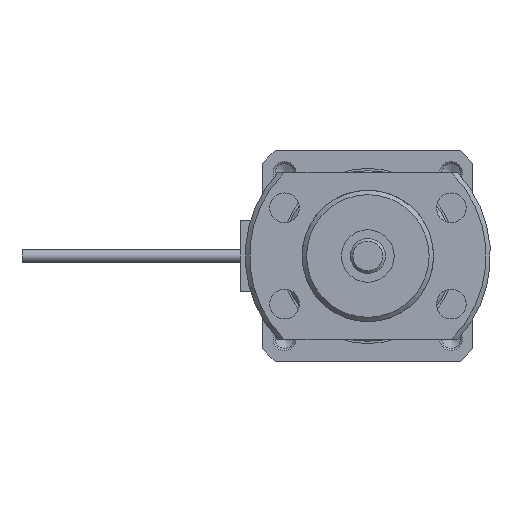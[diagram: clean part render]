
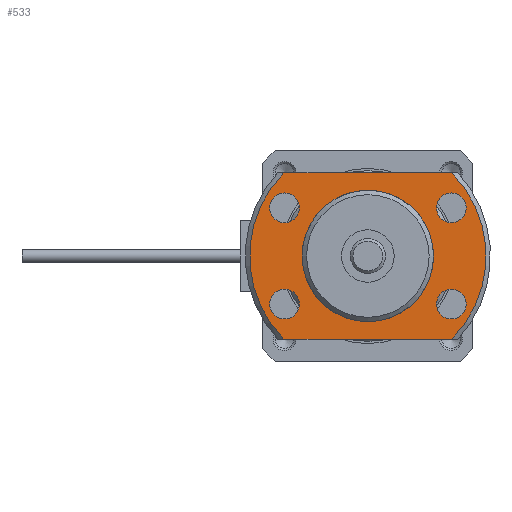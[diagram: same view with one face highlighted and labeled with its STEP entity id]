
A CAD part, left-side view. The second image highlights one B-rep face of the part: STEP entity #533.
In plain terms, the highlighted planar face has unit normal (-1, 0, 0) as drawn and (0, 0, 1) by its records, which use the part's own axes.
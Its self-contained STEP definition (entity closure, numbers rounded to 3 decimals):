
#533 = ADVANCED_FACE( '', ( #1198, #1199, #1200, #1201, #1202, #1203 ), #1204, .F. );
#1198 = FACE_OUTER_BOUND( '', #2085, .T. );
#1199 = FACE_BOUND( '', #2086, .T. );
#1200 = FACE_BOUND( '', #2087, .T. );
#1201 = FACE_BOUND( '', #2088, .T. );
#1202 = FACE_BOUND( '', #2089, .T. );
#1203 = FACE_BOUND( '', #2090, .T. );
#1204 = PLANE( '', #2091 );
#2085 = EDGE_LOOP( '', ( #3565, #3566, #3567, #3568 ) );
#2086 = EDGE_LOOP( '', ( #3569 ) );
#2087 = EDGE_LOOP( '', ( #3570 ) );
#2088 = EDGE_LOOP( '', ( #3571 ) );
#2089 = EDGE_LOOP( '', ( #3572 ) );
#2090 = EDGE_LOOP( '', ( #3573 ) );
#2091 = AXIS2_PLACEMENT_3D( '', #3574, #3575, #3576 );
#3565 = ORIENTED_EDGE( '', *, *, #4845, .F. );
#3566 = ORIENTED_EDGE( '', *, *, #5271, .T. );
#3567 = ORIENTED_EDGE( '', *, *, #4911, .F. );
#3568 = ORIENTED_EDGE( '', *, *, #5272, .T. );
#3569 = ORIENTED_EDGE( '', *, *, #5273, .F. );
#3570 = ORIENTED_EDGE( '', *, *, #5274, .F. );
#3571 = ORIENTED_EDGE( '', *, *, #4855, .F. );
#3572 = ORIENTED_EDGE( '', *, *, #4915, .F. );
#3573 = ORIENTED_EDGE( '', *, *, #5275, .T. );
#3574 = CARTESIAN_POINT( '', ( 0., 0., -13. ) );
#3575 = DIRECTION( '', ( 0., 0., -1. ) );
#3576 = DIRECTION( '', ( -1., 0., 0. ) );
#4845 = EDGE_CURVE( '', #5768, #5771, #5772, .T. );
#4855 = EDGE_CURVE( '', #5787, #5787, #5788, .T. );
#4911 = EDGE_CURVE( '', #5879, #5882, #5883, .T. );
#4915 = EDGE_CURVE( '', #5888, #5888, #5889, .T. );
#5271 = EDGE_CURVE( '', #5768, #5882, #6449, .T. );
#5272 = EDGE_CURVE( '', #5879, #5771, #6450, .T. );
#5273 = EDGE_CURVE( '', #6451, #6451, #6452, .T. );
#5274 = EDGE_CURVE( '', #6453, #6453, #6454, .T. );
#5275 = EDGE_CURVE( '', #6455, #6455, #6456, .T. );
#5768 = VERTEX_POINT( '', #7096 );
#5771 = VERTEX_POINT( '', #7102 );
#5772 = CIRCLE( '', #7103, 13.5 );
#5787 = VERTEX_POINT( '', #7121 );
#5788 = CIRCLE( '', #7122, 1.7 );
#5879 = VERTEX_POINT( '', #7254 );
#5882 = VERTEX_POINT( '', #7260 );
#5883 = CIRCLE( '', #7261, 13.5 );
#5888 = VERTEX_POINT( '', #7269 );
#5889 = CIRCLE( '', #7270, 1.7 );
#6449 = LINE( '', #8263, #8264 );
#6450 = LINE( '', #8265, #8266 );
#6451 = VERTEX_POINT( '', #8267 );
#6452 = CIRCLE( '', #8268, 1.7 );
#6453 = VERTEX_POINT( '', #8269 );
#6454 = CIRCLE( '', #8270, 1.7 );
#6455 = VERTEX_POINT( '', #8271 );
#6456 = CIRCLE( '', #8272, 7.25 );
#7096 = CARTESIAN_POINT( '', ( -9.5, 9.592, -13. ) );
#7102 = CARTESIAN_POINT( '', ( 9.5, 9.592, -13. ) );
#7103 = AXIS2_PLACEMENT_3D( '', #8972, #8973, #8974 );
#7121 = CARTESIAN_POINT( '', ( 7.205, 9.517, -13. ) );
#7122 = AXIS2_PLACEMENT_3D( '', #8990, #8991, #8992 );
#7254 = CARTESIAN_POINT( '', ( 9.5, -9.592, -13. ) );
#7260 = CARTESIAN_POINT( '', ( -9.5, -9.592, -13. ) );
#7261 = AXIS2_PLACEMENT_3D( '', #9052, #9053, #9054 );
#7269 = CARTESIAN_POINT( '', ( -3.795, 9.517, -13. ) );
#7270 = AXIS2_PLACEMENT_3D( '', #9058, #9059, #9060 );
#8263 = CARTESIAN_POINT( '', ( -9.5, 20., -13. ) );
#8264 = VECTOR( '', #9422, 1000. );
#8265 = CARTESIAN_POINT( '', ( 9.5, -20., -13. ) );
#8266 = VECTOR( '', #9423, 1000. );
#8267 = CARTESIAN_POINT( '', ( 7.205, -9.535, -13. ) );
#8268 = AXIS2_PLACEMENT_3D( '', #9424, #9425, #9426 );
#8269 = CARTESIAN_POINT( '', ( -3.795, -9.535, -13. ) );
#8270 = AXIS2_PLACEMENT_3D( '', #9427, #9428, #9429 );
#8271 = CARTESIAN_POINT( '', ( -7.25, 0., -13. ) );
#8272 = AXIS2_PLACEMENT_3D( '', #9430, #9431, #9432 );
#8972 = CARTESIAN_POINT( '', ( 0., 0., -13. ) );
#8973 = DIRECTION( '', ( 0., 0., -1. ) );
#8974 = DIRECTION( '', ( -1., 0., 0. ) );
#8990 = CARTESIAN_POINT( '', ( 5.505, 9.517, -13. ) );
#8991 = DIRECTION( '', ( 0., 0., 1. ) );
#8992 = DIRECTION( '', ( 1., 0., 0. ) );
#9052 = CARTESIAN_POINT( '', ( 0., 0., -13. ) );
#9053 = DIRECTION( '', ( 0., 0., -1. ) );
#9054 = DIRECTION( '', ( -1., 0., 0. ) );
#9058 = CARTESIAN_POINT( '', ( -5.495, 9.517, -13. ) );
#9059 = DIRECTION( '', ( 0., 0., 1. ) );
#9060 = DIRECTION( '', ( 1., 0., 0. ) );
#9422 = DIRECTION( '', ( 0., -1., 0. ) );
#9423 = DIRECTION( '', ( 0., 1., 0. ) );
#9424 = CARTESIAN_POINT( '', ( 5.505, -9.535, -13. ) );
#9425 = DIRECTION( '', ( 0., 0., 1. ) );
#9426 = DIRECTION( '', ( 1., 0., 0. ) );
#9427 = CARTESIAN_POINT( '', ( -5.495, -9.535, -13. ) );
#9428 = DIRECTION( '', ( 0., 0., 1. ) );
#9429 = DIRECTION( '', ( 1., 0., 0. ) );
#9430 = CARTESIAN_POINT( '', ( 0., 0., -13. ) );
#9431 = DIRECTION( '', ( 0., 0., -1. ) );
#9432 = DIRECTION( '', ( -1., 0., 0. ) );
